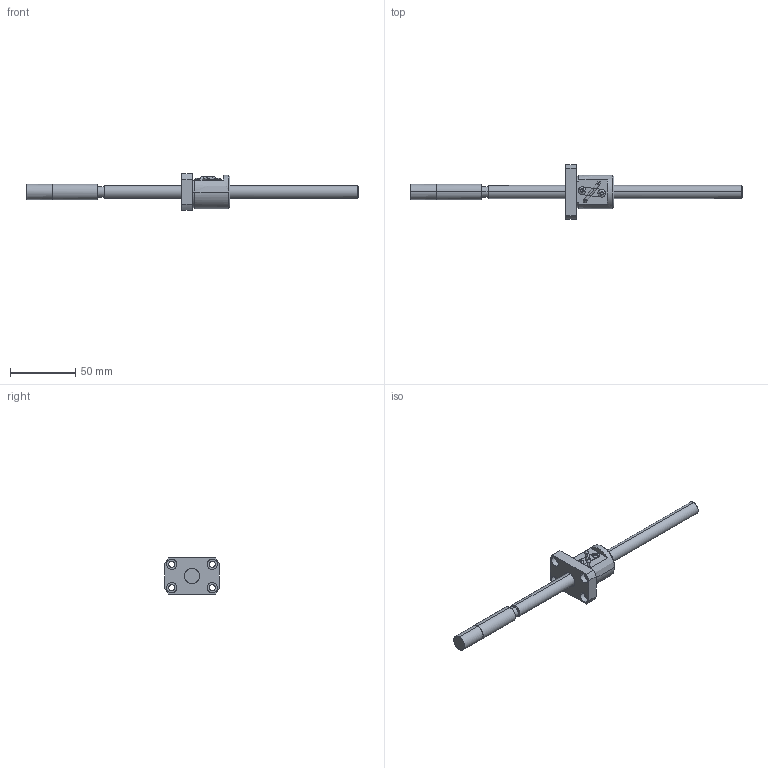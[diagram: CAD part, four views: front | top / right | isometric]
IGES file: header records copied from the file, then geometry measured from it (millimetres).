
Global section: file name: No Iges File Name specified; native system: AutoDesk Inventor R10; preprocessor: AutoDesk Inventor Iges Exporter R10; author: No Author specified; organization: No Organization specified; date: 20101224.135842; units: millimetre
Bounding box: 255 x 42 x 28 mm (x, y, z)
Surface area: 16220.5 mm2 (no closed solid volume)
Topology: 0 solids, 0 shells, 135 faces, 994 edges, 994 vertices
Faces by surface type: bspline 135
